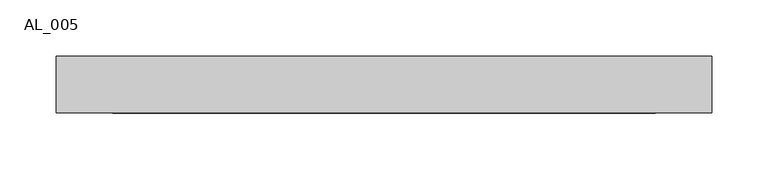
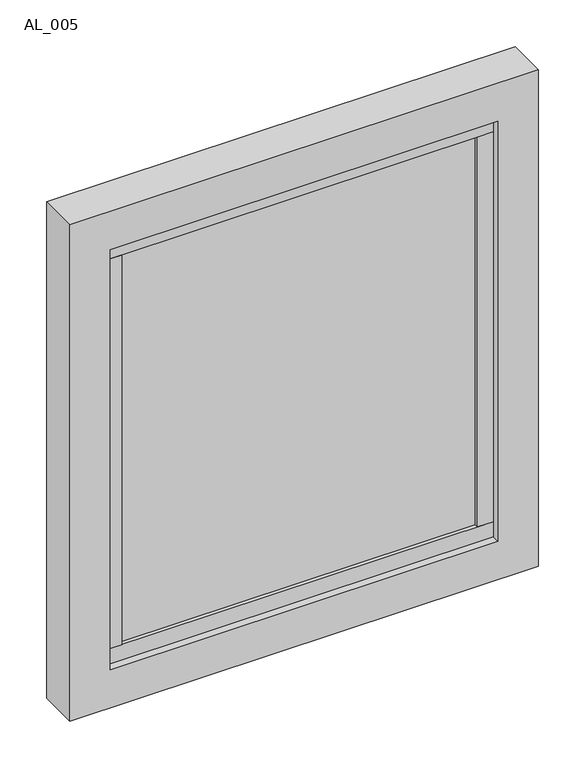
"""IFC4 building model written with IfcOpenShell, lengths in millimetres: plate geometry, TRP_CP_ARC_PF_RE : AL_005."""

from ifc_helpers import new_model, si_unit, frame, origin, place, context, project, spatial, polyline, outline, extrude, source, transform, mapped, element, save


def al_005_105dd437(model_context):
    return source(origin(), model_context, "Body", "SweptSolid", [
        extrude(outline(polyline([(220.0412783, -10.0), (-220.0412783, -10.0), (-220.0412783, 10.0), (220.0412783, 10.0), (220.0412783, -10.0)])), frame((0.0, 0.0, 70.0), z_axis=(0.0, 0.0, 1.0), x_axis=(1.0, 0.0, 0.0)), (0.0, 0.0, 1.0), 509.970898),
        extrude(outline(polyline([(240.0412783, -15.0), (220.0412783, -15.0), (220.0412783, 15.0), (240.0412783, 15.0), (240.0412783, -15.0)])), frame((0.0, 0.0, 70.0), z_axis=(0.0, 0.0, 1.0), x_axis=(1.0, 0.0, 0.0)), (0.0, 0.0, 1.0), 509.970898),
        extrude(outline(polyline([(-220.0412783, -15.0), (-240.0412783, -15.0), (-240.0412783, 15.0), (-220.0412783, 15.0), (-220.0412783, -15.0)])), frame((0.0, 0.0, 70.0), z_axis=(0.0, 0.0, 1.0), x_axis=(1.0, 0.0, 0.0)), (0.0, 0.0, 1.0), 509.970898),
        extrude(outline(polyline([(240.0412783, -15.0), (-240.0412783, -15.0), (-240.0412783, 15.0), (240.0412783, 15.0), (240.0412783, -15.0)])), frame((0.0, 0.0, 50.0), z_axis=(0.0, 0.0, 1.0), x_axis=(1.0, 0.0, 0.0)), (0.0, 0.0, 1.0), 20.0),
        extrude(outline(polyline([(240.0412783, -15.0), (-240.0412783, -15.0), (-240.0412783, 15.0), (240.0412783, 15.0), (240.0412783, -15.0)])), frame((0.0, 0.0, 579.970898), z_axis=(0.0, 0.0, 1.0), x_axis=(1.0, 0.0, 0.0)), (0.0, 0.0, 1.0), 20.0),
        extrude(outline(polyline([(649.970898, 290.0412783), (649.970898, -290.0412783), (0.0, -290.0412783), (0.0, 290.0412783), (649.970898, 290.0412783)]), holes=[polyline([(50.0, 240.0412783), (50.0, -240.0412783), (599.970898, -240.0412783), (599.970898, 240.0412783), (50.0, 240.0412783)])]), frame((0.0, -25.0, 0.0), z_axis=(0.0, 1.0, 0.0), x_axis=(0.0, 0.0, 1.0)), (0.0, 0.0, 1.0), 50.0),
    ])


if __name__ == "__main__":
    model = new_model("IFC4")
    model_context = context("Model", 3, world=origin())
    ifc_project = project(units=[si_unit("LENGTHUNIT", "METRE", prefix="MILLI")], contexts=[model_context])
    site = spatial("IfcSite", under=ifc_project)
    building = spatial("IfcBuilding", under=site)
    placement = place(None, origin())
    al_005_shape = al_005_105dd437(model_context)
    element("IfcPlate", 1, ObjectType="TRP_CP_ARC_PF_RE : AL_005", at=placement, inside=building, context=model_context, shape_type="MappedRepresentation", body=[
        mapped(al_005_shape, transform((0.0, 0.0, 0.0), x_axis=(1.0, 0.0, 0.0), y_axis=(0.0, 1.0, 0.0), z_axis=(0.0, 0.0, 1.0))),
    ])
    save(model, "model.ifc")
